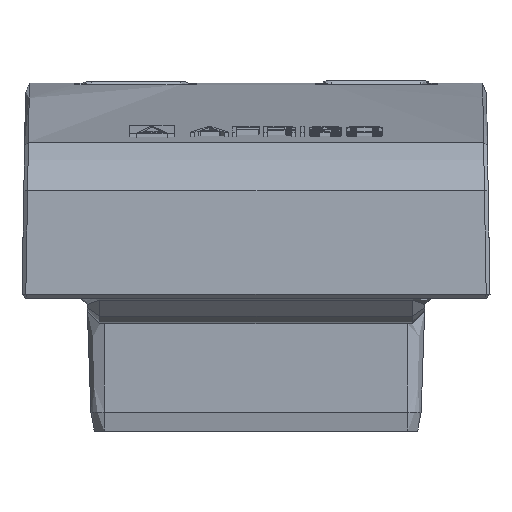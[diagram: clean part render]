
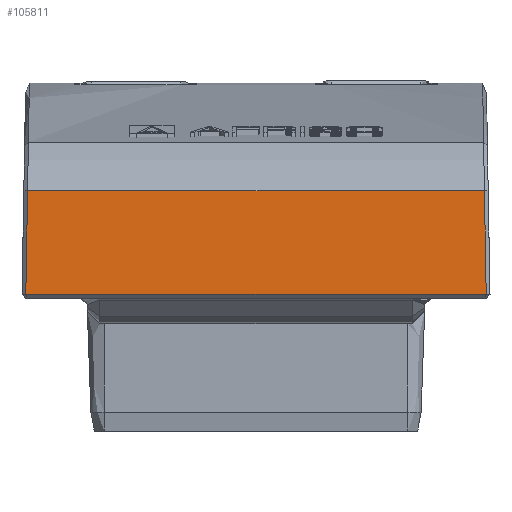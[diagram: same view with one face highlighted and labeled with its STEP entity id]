
A CAD part, front view. The second image highlights one B-rep face of the part: STEP entity #105811.
In plain terms, the highlighted planar face has unit normal (0, -1, 0.018) as drawn and (0, 1, 0.017) by its records, which use the part's own axes.
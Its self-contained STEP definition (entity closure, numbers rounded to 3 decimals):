
#5674 = VERTEX_POINT ( 'NONE', #23920 ) ;
#10104 = ORIENTED_EDGE ( 'NONE', *, *, #38163, .T. ) ;
#10508 = PLANE ( 'NONE',  #49852 ) ;
#12116 = CARTESIAN_POINT ( 'NONE',  ( -18.052, 45.049, 20. ) ) ;
#14128 = EDGE_LOOP ( 'NONE', ( #44871, #10104, #102704, #93965 ) ) ;
#17093 = VECTOR ( 'NONE', #47940, 1000. ) ;
#19426 = VERTEX_POINT ( 'NONE', #12116 ) ;
#23920 = CARTESIAN_POINT ( 'NONE',  ( -18.195, 45.193, 11.806 ) ) ;
#24121 = DIRECTION ( 'NONE',  ( 0., -0.017, 1. ) ) ;
#31422 = CARTESIAN_POINT ( 'NONE',  ( 18.052, 45.049, 20. ) ) ;
#32127 = FACE_OUTER_BOUND ( 'NONE', #14128, .T. ) ;
#38163 = EDGE_CURVE ( 'NONE', #5674, #19426, #69308, .T. ) ;
#38248 = CARTESIAN_POINT ( 'NONE',  ( -18.147, 45.145, 14.538 ) ) ;
#44871 = ORIENTED_EDGE ( 'NONE', *, *, #50586, .T. ) ;
#47683 = VERTEX_POINT ( 'NONE', #93096 ) ;
#47940 = DIRECTION ( 'NONE',  ( -1., 0., 0. ) ) ;
#48196 = CARTESIAN_POINT ( 'NONE',  ( -22.613, 44.995, 23.134 ) ) ;
#48542 = B_SPLINE_CURVE_WITH_KNOTS ( 'NONE', 3,
 ( #31422, #80759, #49624, #64149 ),
 .UNSPECIFIED., .F., .F.,
 ( 4, 4 ),
 ( 0., 1. ),
 .UNSPECIFIED. ) ;
#49624 = CARTESIAN_POINT ( 'NONE',  ( 18.147, 45.145, 14.538 ) ) ;
#49852 = AXIS2_PLACEMENT_3D ( 'NONE', #48196, #64859, #24121 ) ;
#50586 = EDGE_CURVE ( 'NONE', #47683, #5674, #96839, .T. ) ;
#55744 = EDGE_CURVE ( 'NONE', #97671, #47683, #48542, .T. ) ;
#60337 = VECTOR ( 'NONE', #63139, 1000. ) ;
#61710 = EDGE_CURVE ( 'NONE', #97671, #19426, #98277, .T. ) ;
#62063 = CARTESIAN_POINT ( 'NONE',  ( -22.613, 45.192, 11.806 ) ) ;
#63139 = DIRECTION ( 'NONE',  ( -1., 0., 0. ) ) ;
#64149 = CARTESIAN_POINT ( 'NONE',  ( 18.195, 45.193, 11.806 ) ) ;
#64859 = DIRECTION ( 'NONE',  ( 0., 1., 0.017 ) ) ;
#65108 = CARTESIAN_POINT ( 'NONE',  ( 31.699, 45.049, 20. ) ) ;
#69308 = B_SPLINE_CURVE_WITH_KNOTS ( 'NONE', 3,
 ( #93501, #38248, #69384, #103661 ),
 .UNSPECIFIED., .F., .F.,
 ( 4, 4 ),
 ( 0., 1. ),
 .UNSPECIFIED. ) ;
#69384 = CARTESIAN_POINT ( 'NONE',  ( -18.099, 45.097, 17.269 ) ) ;
#80759 = CARTESIAN_POINT ( 'NONE',  ( 18.099, 45.097, 17.269 ) ) ;
#90659 = CARTESIAN_POINT ( 'NONE',  ( 18.052, 45.049, 20. ) ) ;
#93096 = CARTESIAN_POINT ( 'NONE',  ( 18.195, 45.193, 11.806 ) ) ;
#93501 = CARTESIAN_POINT ( 'NONE',  ( -18.195, 45.193, 11.806 ) ) ;
#93965 = ORIENTED_EDGE ( 'NONE', *, *, #55744, .T. ) ;
#96839 = LINE ( 'NONE', #62063, #60337 ) ;
#97671 = VERTEX_POINT ( 'NONE', #90659 ) ;
#98277 = LINE ( 'NONE', #65108, #17093 ) ;
#102704 = ORIENTED_EDGE ( 'NONE', *, *, #61710, .F. ) ;
#103661 = CARTESIAN_POINT ( 'NONE',  ( -18.052, 45.049, 20. ) ) ;
#105811 = ADVANCED_FACE ( 'NONE', ( #32127 ), #10508, .T. ) ;
